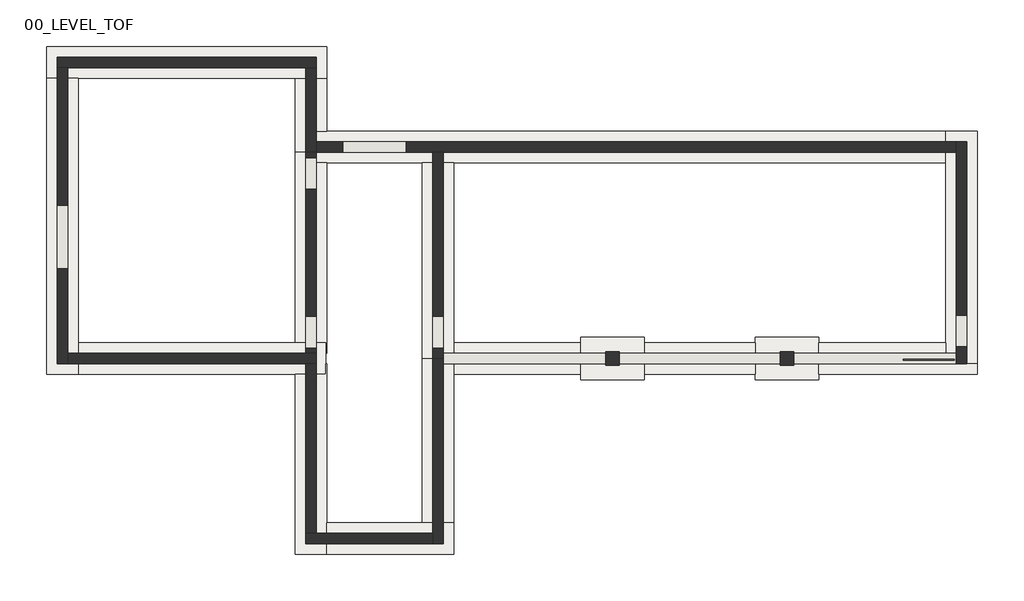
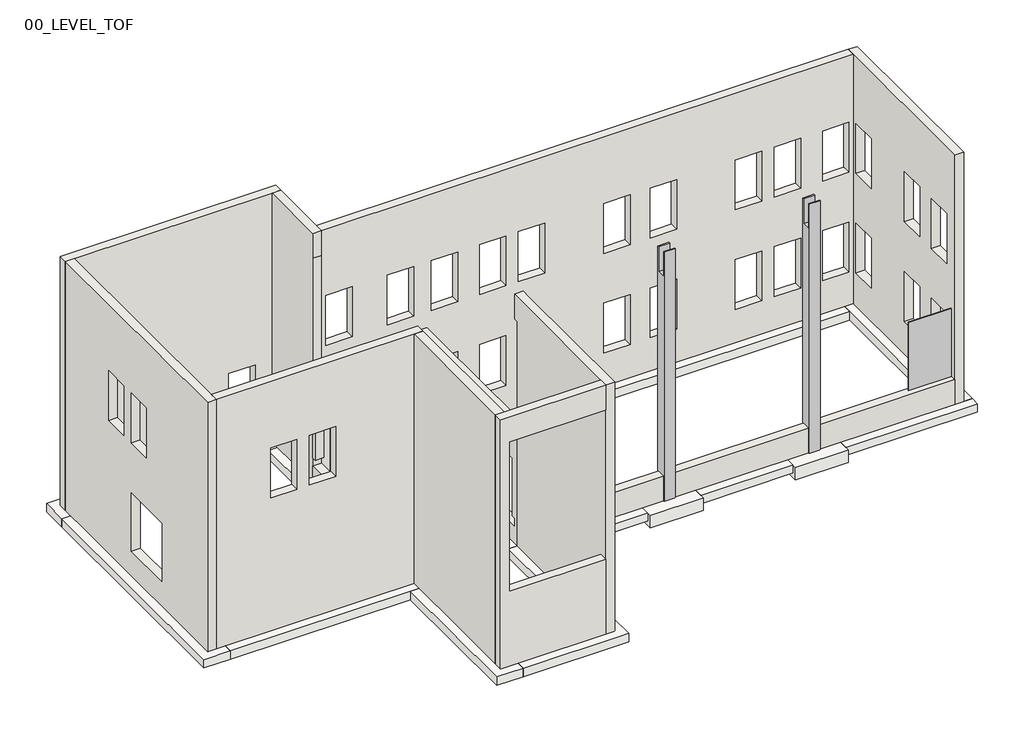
# One storey: 12 footings, 12 walls, 2 columns, 2 slabs, 1 plate.
"""IFC4 building model written with IfcOpenShell, lengths in millimetres."""

from ifc_helpers import new_model, si_unit, frame, origin, place, context, project, spatial, polyline, outline, extrude, faceted_brep, transform, mapped, element, save
from components import system_panel_glazed_93778ba0

model = new_model("IFC4")

# Units and contexts
model_context = context("Model", 3, world=origin())
ifc_project = project(units=[si_unit("LENGTHUNIT", "METRE", prefix="MILLI")], contexts=[model_context])

# Site, building, storey
site = spatial("IfcSite", under=ifc_project)
building = spatial("IfcBuilding", under=site)
storey = spatial("IfcBuildingStorey", under=building, Name="00_LEVEL_TOF", Elevation=-914.4)

# Columns
placement = place(None, origin())
element("IfcColumn", 1, ObjectType="Rectangular Column : 15\" X 15\"", at=placement, inside=storey, context=model_context, shape_type="SweptSolid", body=[
    extrude(outline(polyline([(25825.8332157, -914.4), (25825.8332157, 8229.6), (25863.9332157, 8229.6), (25863.9332157, 7315.2), (26168.7332157, 7315.2), (26168.7332157, 8229.6), (26206.8332157, 8229.6), (26206.8332157, -914.4), (26168.7332157, -914.4), (26168.7332157, 0.0), (25863.9332157, 0.0), (25863.9332157, -914.4), (25825.8332157, -914.4)])), frame((36624.4816981, 0.0, 0.0), z_axis=(1.0, 0.0, 0.0), x_axis=(0.0, 1.0, 0.0)), (0.0, 0.0, 1.0), 381.0),
])
element("IfcColumn", 2, ObjectType="Rectangular Column : 15\" X 15\"", at=placement, inside=storey, context=model_context, shape_type="SweptSolid", body=[
    extrude(outline(polyline([(25825.8332157, -914.4), (25825.8332157, 8229.6), (25863.9332157, 8229.6), (25863.9332157, 7315.2), (26168.7332157, 7315.2), (26168.7332157, 8229.6), (26206.8332157, 8229.6), (26206.8332157, -914.4), (26168.7332157, -914.4), (26168.7332157, 0.0), (25863.9332157, 0.0), (25863.9332157, -914.4), (25825.8332157, -914.4)])), frame((41653.6816981, 0.0, 0.0), z_axis=(1.0, 0.0, 0.0), x_axis=(0.0, 1.0, 0.0)), (0.0, 0.0, 1.0), 381.0),
])

# Footings
element("IfcFooting", 3, ObjectType="Bearing Footing - 36\" x 12\"", at=placement, inside=storey, context=model_context, shape_type="Brep", body=[
    faceted_brep([(47330.5816981, 25863.9332157, -914.4), (46416.1816981, 25863.9332157, -914.4), (46416.1816981, 25863.9332157, -1219.2), (47330.5816981, 25863.9332157, -1219.2), (46416.1816981, 32569.5332157, -914.4), (46416.1816981, 31655.1332157, -914.4), (46416.1816981, 26473.5332157, -914.4), (47330.5816981, 32569.5332157, -914.4), (47330.5816981, 32569.5332157, -1219.2), (46416.1816981, 32569.5332157, -1219.2), (46416.1816981, 26473.5332157, -1219.2), (46416.1816981, 31655.1332157, -1219.2)], [[[0, 1, 2, 3]], [[4, 5, 6, 1, 0, 7]], [[8, 7, 0, 3]], [[9, 8, 3, 2, 10, 11]], [[4, 9, 11, 10, 2, 1, 6, 5]], [[4, 7, 8, 9]]]),
])
element("IfcFooting", 4, ObjectType="Bearing Footing - 36\" x 12\"", at=placement, inside=storey, context=model_context, shape_type="Brep", body=[
    faceted_brep([(20508.1816981, 34093.5332157, -914.4), (21422.5816981, 34093.5332157, -914.4), (27670.9816981, 34093.5332157, -914.4), (28585.3816981, 34093.5332157, -914.4), (28585.3816981, 35007.9332157, -914.4), (20508.1816981, 35007.9332157, -914.4), (20508.1816981, 35007.9332157, -1219.2), (28585.3816981, 35007.9332157, -1219.2), (20508.1816981, 34093.5332157, -1219.2), (28585.3816981, 34093.5332157, -1219.2), (27670.9816981, 34093.5332157, -1219.2), (21422.5816981, 34093.5332157, -1219.2)], [[[0, 1, 2, 3, 4, 5]], [[6, 5, 4, 7]], [[8, 6, 7, 9, 10, 11]], [[0, 8, 11, 10, 9, 3, 2, 1]], [[4, 3, 9, 7]], [[0, 5, 6, 8]]]),
])
element("IfcFooting", 5, ObjectType="Bearing Footing - 36\" x 12\"", at=placement, inside=storey, context=model_context, shape_type="Brep", body=[
    faceted_brep([(20508.1816981, 25559.1332157, -914.4), (21422.5816981, 25559.1332157, -914.4), (21422.5816981, 26473.5332157, -914.4), (21422.5816981, 34093.5332157, -914.4), (20508.1816981, 34093.5332157, -914.4), (20508.1816981, 25559.1332157, -1219.2), (20508.1816981, 34093.5332157, -1219.2), (21422.5816981, 25559.1332157, -1219.2), (21422.5816981, 34093.5332157, -1219.2), (21422.5816981, 26473.5332157, -1219.2)], [[[0, 1, 2, 3, 4]], [[5, 0, 4, 6]], [[7, 5, 6, 8, 9]], [[1, 7, 9, 8, 3, 2]], [[1, 0, 5, 7]], [[4, 3, 8, 6]]]),
])
element("IfcFooting", 6, ObjectType="Bearing Footing - 36\" x 12\"", at=placement, inside=storey, context=model_context, shape_type="Brep", body=[
    faceted_brep([(28557.4397412, 25559.1332157, -914.4), (28557.4397412, 25559.1332157, -1219.2), (28557.4397412, 25863.9332157, -1219.2), (28557.4397412, 26168.7332157, -1219.2), (28557.4397412, 26473.5332157, -1219.2), (28557.4397412, 26473.5332157, -914.4), (28557.4397412, 26168.7332157, -914.4), (28557.4397412, 25863.9332157, -914.4), (27670.9816981, 26473.5332157, -914.4), (21422.5816981, 26473.5332157, -914.4), (21422.5816981, 25559.1332157, -914.4), (27670.9816981, 25559.1332157, -914.4), (21422.5816981, 25559.1332157, -1219.2), (27670.9816981, 25559.1332157, -1219.2), (21422.5816981, 26473.5332157, -1219.2), (27670.9816981, 26473.5332157, -1219.2)], [[[0, 1, 2, 3, 4, 5, 6, 7]], [[0, 7, 6, 5, 8, 9, 10, 11]], [[1, 0, 11, 10, 12, 13]], [[4, 3, 2, 1, 13, 12, 14, 15]], [[5, 4, 15, 14, 9, 8]], [[10, 9, 14, 12]]]),
])
element("IfcFooting", 7, ObjectType="Bearing Footing - 36\" x 12\"", at=placement, inside=storey, context=model_context, shape_type="Brep", body=[
    faceted_brep([(28128.1816981, 32112.3332157, -914.4), (28128.1816981, 31959.9332157, -914.4), (28128.1816981, 31655.1332157, -914.4), (28585.3816981, 31655.1332157, -914.4), (31328.5816981, 31655.1332157, -914.4), (32242.9816981, 31655.1332157, -914.4), (46416.1816981, 31655.1332157, -914.4), (46416.1816981, 32569.5332157, -914.4), (28585.3816981, 32569.5332157, -914.4), (28128.1816981, 32569.5332157, -914.4), (28128.1816981, 32569.5332157, -1219.2), (46416.1816981, 32569.5332157, -1219.2), (28585.3816981, 32569.5332157, -1219.2), (28128.1816981, 32112.3332157, -1219.2), (46416.1816981, 31655.1332157, -1219.2), (32242.9816981, 31655.1332157, -1219.2), (31328.5816981, 31655.1332157, -1219.2), (28585.3816981, 31655.1332157, -1219.2), (28128.1816981, 31655.1332157, -1219.2), (28128.1816981, 31959.9332157, -1219.2)], [[[0, 1, 2, 3, 4, 5, 6, 7, 8, 9]], [[10, 9, 8, 7, 11, 12]], [[13, 10, 12, 11, 14, 15, 16, 17, 18, 19]], [[2, 18, 17, 16, 15, 14, 6, 5, 4, 3]], [[7, 6, 14, 11]], [[18, 2, 1, 0, 13, 19]], [[9, 10, 13, 0]]]),
])
element("IfcFooting", 8, ObjectType="Bearing Footing - 36\" x 12\"", at=placement, inside=storey, context=model_context, shape_type="SweptSolid", body=[
    extrude(outline(polyline([(27670.9816981, 31959.9332157), (27670.9816981, 34093.5332157), (28585.3816981, 34093.5332157), (28585.3816981, 32569.5332157), (28128.1816981, 32569.5332157), (28128.1816981, 32112.3332157), (28128.1816981, 31959.9332157), (27670.9816981, 31959.9332157)])), frame((0.0, 0.0, -1219.2), z_axis=(0.0, 0.0, 1.0), x_axis=(1.0, 0.0, 0.0)), (0.0, 0.0, 1.0), 304.8),
])
element("IfcFooting", 9, ObjectType="Bearing Footing - 36\" x 12\"", at=placement, inside=storey, context=model_context, shape_type="Brep", body=[
    faceted_brep([(32242.9816981, 26016.3332157, -914.4), (31328.5816981, 26016.3332157, -914.4), (31328.5816981, 26016.3332157, -1219.2), (32242.9816981, 26016.3332157, -1219.2), (32242.9816981, 26473.5332157, -914.4), (32242.9816981, 31655.1332157, -914.4), (31328.5816981, 31655.1332157, -914.4), (31328.5816981, 31655.1332157, -1219.2), (32242.9816981, 31655.1332157, -1219.2), (32242.9816981, 26473.5332157, -1219.2)], [[[0, 1, 2, 3]], [[0, 4, 5, 6, 1]], [[2, 1, 6, 7]], [[3, 2, 7, 8, 9]], [[0, 3, 9, 8, 5, 4]], [[6, 5, 8, 7]]]),
])
element("IfcFooting", 10, ObjectType="Bearing Footing - 36\" x 12\"", at=placement, inside=storey, context=model_context, shape_type="SweptSolid", body=[
    extrude(outline(polyline([(27670.9816981, 26473.5332157), (27670.9816981, 31959.9332157), (28128.1816981, 31959.9332157), (28128.1816981, 31655.1332157), (28585.3816981, 31655.1332157), (28585.3816981, 26168.7332157), (28557.4397412, 26168.7332157), (28557.4397412, 26473.5332157), (27670.9816981, 26473.5332157)])), frame((0.0, 0.0, -1219.2), z_axis=(0.0, 0.0, 1.0), x_axis=(1.0, 0.0, 0.0)), (0.0, 0.0, 1.0), 304.8),
])
element("IfcFooting", 11, ObjectType="Bearing Footing - 36\" x 12\"", at=placement, inside=storey, context=model_context, shape_type="Brep", body=[
    faceted_brep([(28585.3816981, 25863.9332157, -914.4), (28585.3816981, 25863.9332157, -1219.2), (28557.4397412, 25863.9332157, -1219.2), (28557.4397412, 25863.9332157, -914.4), (28585.3816981, 20377.5332157, -914.4), (28585.3816981, 21291.9332157, -914.4), (28557.4397412, 25559.1332157, -914.4), (27670.9816981, 25559.1332157, -914.4), (27670.9816981, 20377.5332157, -914.4), (27670.9816981, 20377.5332157, -1219.2), (27670.9816981, 25559.1332157, -1219.2), (28585.3816981, 21291.9332157, -1219.2), (28585.3816981, 20377.5332157, -1219.2), (28557.4397412, 25559.1332157, -1219.2)], [[[0, 1, 2, 3]], [[4, 5, 0, 3, 6, 7, 8]], [[9, 8, 7, 10]], [[1, 11, 12, 9, 10, 13, 2]], [[1, 0, 5, 4, 12, 11]], [[13, 6, 3, 2]], [[6, 13, 10, 7]], [[4, 8, 9, 12]]]),
])
element("IfcFooting", 12, ObjectType="Bearing Footing - 36\" x 12\"", at=placement, inside=storey, context=model_context, shape_type="Brep", body=[
    faceted_brep([(32242.9816981, 20377.5332157, -914.4), (32242.9816981, 21291.9332157, -914.4), (31328.5816981, 21291.9332157, -914.4), (28585.3816981, 21291.9332157, -914.4), (28585.3816981, 20377.5332157, -914.4), (32242.9816981, 20377.5332157, -1219.2), (28585.3816981, 20377.5332157, -1219.2), (32242.9816981, 21291.9332157, -1219.2), (28585.3816981, 21291.9332157, -1219.2), (31328.5816981, 21291.9332157, -1219.2)], [[[0, 1, 2, 3, 4]], [[5, 0, 4, 6]], [[7, 5, 6, 8, 9]], [[1, 7, 9, 8, 3, 2]], [[4, 3, 8, 6]], [[1, 0, 5, 7]]]),
])
element("IfcFooting", 13, ObjectType="Bearing Footing - 36\" x 12\"", at=placement, inside=storey, context=model_context, shape_type="Brep", body=[
    faceted_brep([(32242.9816981, 26016.3332157, -914.4), (32242.9816981, 26016.3332157, -1219.2), (31328.5816981, 26016.3332157, -1219.2), (31328.5816981, 26016.3332157, -914.4), (31328.5816981, 21291.9332157, -914.4), (32242.9816981, 21291.9332157, -914.4), (32242.9816981, 25559.1332157, -914.4), (32242.9816981, 21291.9332157, -1219.2), (32242.9816981, 25559.1332157, -1219.2), (31328.5816981, 21291.9332157, -1219.2)], [[[0, 1, 2, 3]], [[0, 3, 4, 5, 6]], [[1, 0, 6, 5, 7, 8]], [[2, 1, 8, 7, 9]], [[3, 2, 9, 4]], [[5, 4, 9, 7]]]),
])
element("IfcFooting", 14, ObjectType="Bearing Footing - 36\" x 12\"", at=placement, inside=storey, context=model_context, shape_type="Brep", body=[
    faceted_brep([(47330.5816981, 25559.1332157, -914.4), (47330.5816981, 25863.9332157, -914.4), (46416.1816981, 25863.9332157, -914.4), (46416.1816981, 26473.5332157, -914.4), (42758.5816981, 26473.5332157, -914.4), (42758.5816981, 25559.1332157, -914.4), (47330.5816981, 25559.1332157, -1219.2), (42758.5816981, 25559.1332157, -1219.2), (47330.5816981, 25863.9332157, -1219.2), (42758.5816981, 26473.5332157, -1219.2), (46416.1816981, 26473.5332157, -1219.2), (46416.1816981, 25863.9332157, -1219.2)], [[[0, 1, 2, 3, 4, 5]], [[6, 0, 5, 7]], [[8, 6, 7, 9, 10, 11]], [[3, 10, 9, 4]], [[0, 6, 8, 1]], [[11, 2, 1, 8]], [[2, 11, 10, 3]], [[5, 4, 9, 7]]]),
    faceted_brep([(32242.9816981, 26473.5332157, -914.4), (32242.9816981, 26016.3332157, -914.4), (32242.9816981, 25559.1332157, -914.4), (35900.5816981, 25559.1332157, -914.4), (35900.5816981, 26473.5332157, -914.4), (32242.9816981, 25559.1332157, -1219.2), (35900.5816981, 25559.1332157, -1219.2), (32242.9816981, 26016.3332157, -1219.2), (32242.9816981, 26473.5332157, -1219.2), (35900.5816981, 26473.5332157, -1219.2)], [[[0, 1, 2, 3, 4]], [[2, 5, 6, 3]], [[5, 7, 8, 9, 6]], [[8, 0, 4, 9]], [[0, 8, 7, 5, 2, 1]], [[4, 3, 6, 9]]]),
    faceted_brep([(37729.3816981, 26473.5332157, -914.4), (37729.3816981, 25559.1332157, -914.4), (40929.7816981, 25559.1332157, -914.4), (40929.7816981, 26473.5332157, -914.4), (37729.3816981, 25559.1332157, -1219.2), (40929.7816981, 25559.1332157, -1219.2), (37729.3816981, 26473.5332157, -1219.2), (40929.7816981, 26473.5332157, -1219.2)], [[[0, 1, 2, 3]], [[1, 4, 5, 2]], [[4, 6, 7, 5]], [[6, 0, 3, 7]], [[1, 0, 6, 4]], [[3, 2, 5, 7]]]),
])

# Plate
system_panel_glazed_shape = system_panel_glazed_93778ba0(model_context)
element("IfcPlate", 15, ObjectType="System Panel : Glazed", at=placement, inside=storey, context=model_context, shape_type="MappedRepresentation", body=[
    mapped(system_panel_glazed_shape, transform((45924.0566981, 26016.3332157, 63.5), x_axis=(-1.0, 0.0, 0.0), y_axis=(0.0, -1.0, 0.0), z_axis=(0.0, 0.0, 1.0))),
])

# Slabs
element("IfcSlab", 16, ObjectType="Footing-Rectangular : 72\" x 48\" x 18\"", at=placement, inside=storey, context=model_context, shape_type="Brep", body=[
    faceted_brep([(35900.5816981, 26625.9332157, -914.4), (35900.5816981, 26473.5332157, -914.4), (35900.5816981, 25559.1332157, -914.4), (35900.5816981, 25406.7332157, -914.4), (37729.3816981, 25406.7332157, -914.4), (37729.3816981, 25559.1332157, -914.4), (37729.3816981, 26473.5332157, -914.4), (37729.3816981, 26625.9332157, -914.4), (35900.5816981, 26625.9332157, -1371.6), (37729.3816981, 26625.9332157, -1371.6), (37729.3816981, 25406.7332157, -1371.6), (35900.5816981, 25406.7332157, -1371.6)], [[[0, 1, 2, 3, 4, 5, 6, 7]], [[8, 9, 10, 11]], [[3, 2, 1, 0, 8, 11]], [[4, 3, 11, 10]], [[7, 6, 5, 4, 10, 9]], [[0, 7, 9, 8]]]),
])
element("IfcSlab", 17, ObjectType="Footing-Rectangular : 72\" x 48\" x 18\"", at=placement, inside=storey, context=model_context, shape_type="Brep", body=[
    faceted_brep([(40929.7816981, 26625.9332157, -914.4), (40929.7816981, 26473.5332157, -914.4), (40929.7816981, 25559.1332157, -914.4), (40929.7816981, 25406.7332157, -914.4), (42758.5816981, 25406.7332157, -914.4), (42758.5816981, 25559.1332157, -914.4), (42758.5816981, 26473.5332157, -914.4), (42758.5816981, 26625.9332157, -914.4), (40929.7816981, 26625.9332157, -1371.6), (42758.5816981, 26625.9332157, -1371.6), (42758.5816981, 25406.7332157, -1371.6), (40929.7816981, 25406.7332157, -1371.6)], [[[0, 1, 2, 3, 4, 5, 6, 7]], [[8, 9, 10, 11]], [[3, 2, 1, 0, 8, 11]], [[4, 3, 11, 10]], [[7, 6, 5, 4, 10, 9]], [[0, 7, 9, 8]]]),
])

# Walls
element("IfcWall", 18, ObjectType="Generic - 12\"", at=placement, inside=storey, context=model_context, shape_type="Brep", body=[
    faceted_brep([(20812.9816981, 34398.3332157, -914.4), (21117.7816981, 34398.3332157, -914.4), (27975.7816981, 34398.3332157, -914.4), (28280.5816981, 34398.3332157, -914.4), (28280.5816981, 34398.3332157, 8229.6), (27975.7816981, 34398.3332157, 8229.6), (21117.7816981, 34398.3332157, 8229.6), (20812.9816981, 34398.3332157, 8229.6), (24953.1816981, 34398.3332157, 2133.6), (24953.1816981, 34398.3332157, 609.6), (24038.7816981, 34398.3332157, 609.6), (24038.7816981, 34398.3332157, 2133.6), (27391.5816981, 34398.3332157, 2133.6), (27391.5816981, 34398.3332157, 609.6), (26477.1816981, 34398.3332157, 609.6), (26477.1816981, 34398.3332157, 2133.6), (20812.9816981, 34703.1332157, -914.4), (20812.9816981, 34703.1332157, 8229.6), (28280.5816981, 34703.1332157, 8229.6), (28280.5816981, 34703.1332157, -914.4), (24953.1816981, 34703.1332157, 2133.6), (24038.7816981, 34703.1332157, 2133.6), (24038.7816981, 34703.1332157, 609.6), (24953.1816981, 34703.1332157, 609.6), (27391.5816981, 34703.1332157, 2133.6), (26477.1816981, 34703.1332157, 2133.6), (26477.1816981, 34703.1332157, 609.6), (27391.5816981, 34703.1332157, 609.6)], [[[0, 1, 2, 3, 4, 5, 6, 7], [8, 9, 10, 11], [12, 13, 14, 15]], [[16, 17, 18, 19], [20, 21, 22, 23], [24, 25, 26, 27]], [[3, 2, 1, 0, 16, 19]], [[7, 6, 5, 4, 18, 17]], [[0, 7, 17, 16]], [[4, 3, 19, 18]], [[9, 8, 20, 23]], [[10, 9, 23, 22]], [[11, 10, 22, 21]], [[8, 11, 21, 20]], [[13, 12, 24, 27]], [[14, 13, 27, 26]], [[15, 14, 26, 25]], [[12, 15, 25, 24]]]),
])
element("IfcWall", 19, ObjectType="Generic - 12\"", at=placement, inside=storey, context=model_context, shape_type="Brep", body=[
    faceted_brep([(21117.7816981, 25863.9332157, -914.4), (21117.7816981, 26168.7332157, -914.4), (21117.7816981, 34398.3332157, -914.4), (21117.7816981, 34398.3332157, -304.8), (21117.7816981, 34398.3332157, 0.0), (21117.7816981, 34398.3332157, 3384.55), (21117.7816981, 34398.3332157, 3657.6), (21117.7816981, 34398.3332157, 8229.6), (21117.7816981, 26168.7332157, 8229.6), (21117.7816981, 25863.9332157, 8229.6), (21117.7816981, 28607.1332157, 0.0), (21117.7816981, 28607.1332157, 2133.6), (21117.7816981, 30435.9332157, 2133.6), (21117.7816981, 30435.9332157, 0.0), (21117.7816981, 30461.3332157, 5791.2), (21117.7816981, 30461.3332157, 3962.4), (21117.7816981, 29546.9332157, 3962.4), (21117.7816981, 29546.9332157, 5791.2), (21117.7816981, 31807.5332157, 5791.2), (21117.7816981, 31807.5332157, 3962.4), (21117.7816981, 30893.1332157, 3962.4), (21117.7816981, 30893.1332157, 5791.2), (20812.9816981, 25863.9332157, -914.4), (20812.9816981, 25863.9332157, 8229.6), (20812.9816981, 34398.3332157, 8229.6), (20812.9816981, 34398.3332157, -914.4), (20812.9816981, 28607.1332157, 0.0), (20812.9816981, 30435.9332157, 0.0), (20812.9816981, 30435.9332157, 2133.6), (20812.9816981, 28607.1332157, 2133.6), (20812.9816981, 30461.3332157, 5791.2), (20812.9816981, 29546.9332157, 5791.2), (20812.9816981, 29546.9332157, 3962.4), (20812.9816981, 30461.3332157, 3962.4), (20812.9816981, 31807.5332157, 5791.2), (20812.9816981, 30893.1332157, 5791.2), (20812.9816981, 30893.1332157, 3962.4), (20812.9816981, 31807.5332157, 3962.4)], [[[0, 1, 2, 3, 4, 5, 6, 7, 8, 9], [10, 11, 12, 13], [14, 15, 16, 17], [18, 19, 20, 21]], [[22, 23, 24, 25], [26, 27, 28, 29], [30, 31, 32, 33], [34, 35, 36, 37]], [[2, 1, 0, 22, 25]], [[9, 8, 7, 24, 23]], [[0, 9, 23, 22]], [[7, 6, 5, 4, 3, 2, 25, 24]], [[11, 10, 26, 29]], [[12, 11, 29, 28]], [[13, 12, 28, 27]], [[10, 13, 27, 26]], [[15, 14, 30, 33]], [[16, 15, 33, 32]], [[17, 16, 32, 31]], [[14, 17, 31, 30]], [[19, 18, 34, 37]], [[20, 19, 37, 36]], [[21, 20, 36, 35]], [[18, 21, 35, 34]]]),
])
element("IfcWall", 20, ObjectType="Generic - 12\"", at=placement, inside=storey, context=model_context, shape_type="Brep", body=[
    faceted_brep([(46720.9816981, 32264.7332157, -914.4), (46720.9816981, 31959.9332157, -914.4), (46720.9816981, 26168.7332157, -914.4), (46720.9816981, 25863.9332157, -914.4), (46720.9816981, 25863.9332157, 0.0), (46720.9816981, 25863.9332157, 7315.2), (46720.9816981, 25863.9332157, 8229.6), (46720.9816981, 26168.7332157, 8229.6), (46720.9816981, 31959.9332157, 8229.6), (46720.9816981, 32264.7332157, 8229.6), (46720.9816981, 27267.2832157, 0.0), (46720.9816981, 27267.2832157, 2133.6), (46720.9816981, 26352.8832157, 2133.6), (46720.9816981, 26352.8832157, 0.0), (46720.9816981, 26352.8832157, 5791.2), (46720.9816981, 26352.8832157, 3962.4), (46720.9816981, 27267.2832157, 3962.4), (46720.9816981, 27267.2832157, 5791.2), (46720.9816981, 30893.1332157, 2133.6), (46720.9816981, 30893.1332157, 304.8), (46720.9816981, 31807.5332157, 304.8), (46720.9816981, 31807.5332157, 2133.6), (46720.9816981, 27972.1332157, 2133.6), (46720.9816981, 27972.1332157, 304.8), (46720.9816981, 28886.5332157, 304.8), (46720.9816981, 28886.5332157, 2133.6), (46720.9816981, 27972.1332157, 5791.2), (46720.9816981, 27972.1332157, 3962.4), (46720.9816981, 28886.5332157, 3962.4), (46720.9816981, 28886.5332157, 5791.2), (46720.9816981, 30893.1332157, 5791.2), (46720.9816981, 30893.1332157, 3962.4), (46720.9816981, 31807.5332157, 3962.4), (46720.9816981, 31807.5332157, 5791.2), (47025.7816981, 32264.7332157, -914.4), (47025.7816981, 32264.7332157, 8229.6), (47025.7816981, 25863.9332157, 8229.6), (47025.7816981, 25863.9332157, -914.4), (47025.7816981, 27267.2832157, 0.0), (47025.7816981, 26352.8832157, 0.0), (47025.7816981, 26352.8832157, 2133.6), (47025.7816981, 27267.2832157, 2133.6), (47025.7816981, 26352.8832157, 5791.2), (47025.7816981, 27267.2832157, 5791.2), (47025.7816981, 27267.2832157, 3962.4), (47025.7816981, 26352.8832157, 3962.4), (47025.7816981, 30893.1332157, 2133.6), (47025.7816981, 31807.5332157, 2133.6), (47025.7816981, 31807.5332157, 304.8), (47025.7816981, 30893.1332157, 304.8), (47025.7816981, 27972.1332157, 2133.6), (47025.7816981, 28886.5332157, 2133.6), (47025.7816981, 28886.5332157, 304.8), (47025.7816981, 27972.1332157, 304.8), (47025.7816981, 27972.1332157, 5791.2), (47025.7816981, 28886.5332157, 5791.2), (47025.7816981, 28886.5332157, 3962.4), (47025.7816981, 27972.1332157, 3962.4), (47025.7816981, 30893.1332157, 5791.2), (47025.7816981, 31807.5332157, 5791.2), (47025.7816981, 31807.5332157, 3962.4), (47025.7816981, 30893.1332157, 3962.4)], [[[0, 1, 2, 3, 4, 5, 6, 7, 8, 9], [10, 11, 12, 13], [14, 15, 16, 17], [18, 19, 20, 21], [22, 23, 24, 25], [26, 27, 28, 29], [30, 31, 32, 33]], [[34, 35, 36, 37], [38, 39, 40, 41], [42, 43, 44, 45], [46, 47, 48, 49], [50, 51, 52, 53], [54, 55, 56, 57], [58, 59, 60, 61]], [[3, 2, 1, 0, 34, 37]], [[6, 5, 4, 3, 37, 36]], [[9, 8, 7, 6, 36, 35]], [[0, 9, 35, 34]], [[39, 38, 10, 13]], [[40, 39, 13, 12]], [[41, 40, 12, 11]], [[38, 41, 11, 10]], [[15, 14, 42, 45]], [[16, 15, 45, 44]], [[17, 16, 44, 43]], [[14, 17, 43, 42]], [[19, 18, 46, 49]], [[20, 19, 49, 48]], [[21, 20, 48, 47]], [[18, 21, 47, 46]], [[23, 22, 50, 53]], [[24, 23, 53, 52]], [[25, 24, 52, 51]], [[22, 25, 51, 50]], [[27, 26, 54, 57]], [[28, 27, 57, 56]], [[29, 28, 56, 55]], [[26, 29, 55, 54]], [[31, 30, 58, 61]], [[32, 31, 61, 60]], [[33, 32, 60, 59]], [[30, 33, 59, 58]]]),
])
element("IfcWall", 21, ObjectType="Generic - 12\"", at=placement, inside=storey, context=model_context, shape_type="Brep", body=[
    faceted_brep([(28280.5816981, 26168.7332157, -914.4), (28280.5816981, 31959.9332157, -914.4), (28280.5816981, 31959.9332157, -304.8), (28280.5816981, 26168.7332157, -304.8), (27975.7816981, 31959.9332157, -914.4), (27975.7816981, 26168.7332157, -914.4), (27975.7816981, 26168.7332157, -304.8), (27975.7816981, 31959.9332157, -304.8)], [[[0, 1, 2, 3]], [[4, 5, 6, 7]], [[1, 0, 5, 4]], [[5, 0, 3, 6]], [[1, 4, 7, 2]], [[3, 2, 7, 6]]]),
    faceted_brep([(28280.5816981, 26321.1332157, 0.0), (28280.5816981, 26321.1332157, 2133.6), (28280.5816981, 27235.5332157, 2133.6), (28280.5816981, 27235.5332157, 0.0), (28280.5816981, 30893.1332157, 0.0), (28280.5816981, 30893.1332157, 2133.6), (28280.5816981, 31807.5332157, 2133.6), (28280.5816981, 31807.5332157, 0.0), (28280.5816981, 31959.9332157, 0.0), (28280.5816981, 31959.9332157, 3384.55), (28280.5816981, 26168.7332157, 3384.55), (28280.5816981, 26168.7332157, 0.0), (27975.7816981, 26321.1332157, 2133.6), (27975.7816981, 26321.1332157, 0.0), (27975.7816981, 26168.7332157, 0.0), (27975.7816981, 26168.7332157, 3384.55), (27975.7816981, 30613.7332157, 3384.55), (27975.7816981, 30740.7332157, 3384.55), (27975.7816981, 31959.9332157, 3384.55), (27975.7816981, 31959.9332157, 0.0), (27975.7816981, 31807.5332157, 0.0), (27975.7816981, 31807.5332157, 2133.6), (27975.7816981, 30893.1332157, 2133.6), (27975.7816981, 30893.1332157, 0.0), (27975.7816981, 30740.7332157, 0.0), (27975.7816981, 30613.7332157, 0.0), (27975.7816981, 27235.5332157, 0.0), (27975.7816981, 27235.5332157, 2133.6)], [[[0, 1, 2, 3, 4, 5, 6, 7, 8, 9, 10, 11]], [[12, 13, 14, 15, 16, 17, 18, 19, 20, 21, 22, 23, 24, 25, 26, 27]], [[1, 0, 13, 12]], [[2, 1, 12, 27]], [[3, 2, 27, 26]], [[10, 15, 14, 11]], [[15, 10, 9, 18, 17, 16]], [[18, 9, 8, 19]], [[8, 7, 20, 19]], [[0, 11, 14, 13]], [[4, 3, 26, 25, 24, 23]], [[5, 4, 23, 22]], [[6, 5, 22, 21]], [[7, 6, 21, 20]]]),
])
element("IfcWall", 22, ObjectType="Generic - 12\"", at=placement, inside=storey, context=model_context, shape_type="Brep", body=[
    faceted_brep([(31938.1816981, 26016.3332157, -914.4), (31938.1816981, 26168.7332157, -914.4), (31938.1816981, 31959.9332157, -914.4), (31938.1816981, 31959.9332157, -304.8), (31938.1816981, 26168.7332157, -304.8), (31938.1816981, 26168.7332157, 0.0), (31938.1816981, 26321.1332157, 0.0), (31938.1816981, 26321.1332157, 2133.6), (31938.1816981, 27235.5332157, 2133.6), (31938.1816981, 27235.5332157, 0.0), (31938.1816981, 27692.7332157, 0.0), (31938.1816981, 27819.7332157, 0.0), (31938.1816981, 31959.9332157, 0.0), (31938.1816981, 31959.9332157, 3384.55), (31938.1816981, 27819.7332157, 3384.55), (31938.1816981, 27692.7332157, 3384.55), (31938.1816981, 26079.8332157, 3384.55), (31938.1816981, 26016.3332157, 3384.55), (31633.3816981, 31959.9332157, -914.4), (31633.3816981, 26016.3332157, -914.4), (31633.3816981, 26016.3332157, -304.8), (31633.3816981, 26016.3332157, 0.0), (31633.3816981, 26016.3332157, 3384.55), (31633.3816981, 26079.8332157, 3384.55), (31633.3816981, 31959.9332157, 3384.55), (31633.3816981, 31959.9332157, 0.0), (31633.3816981, 27235.5332157, 0.0), (31633.3816981, 27235.5332157, 2133.6), (31633.3816981, 26321.1332157, 2133.6), (31633.3816981, 26321.1332157, 0.0), (31633.3816981, 26168.7332157, 0.0), (31633.3816981, 26168.7332157, -304.8), (31633.3816981, 31959.9332157, -304.8)], [[[0, 1, 2, 3, 4, 5, 6, 7, 8, 9, 10, 11, 12, 13, 14, 15, 16, 17]], [[18, 19, 20, 21, 22, 23, 24, 25, 26, 27, 28, 29, 30, 31, 32]], [[2, 1, 0, 19, 18]], [[7, 6, 29, 28]], [[8, 7, 28, 27]], [[9, 8, 27, 26]], [[2, 18, 32, 3]], [[24, 13, 12, 25]], [[31, 4, 3, 32]], [[12, 11, 10, 9, 26, 25]], [[5, 30, 29, 6]], [[22, 17, 16, 23]], [[13, 24, 23, 16, 15, 14]], [[17, 22, 21, 20, 19, 0]], [[4, 31, 30, 5]]]),
])
element("IfcWall", 23, ObjectType="Generic - 12\"", at=placement, inside=storey, context=model_context, shape_type="Brep", body=[
    faceted_brep([(28280.5816981, 26168.7332157, -914.4), (27975.7816981, 26168.7332157, -914.4), (21117.7816981, 26168.7332157, -914.4), (21117.7816981, 26168.7332157, -304.8), (21117.7816981, 26168.7332157, 0.0), (21117.7816981, 26168.7332157, 8229.6), (28280.5816981, 26168.7332157, 8229.6), (28280.5816981, 26168.7332157, 7315.2), (28280.5816981, 26168.7332157, 3657.6), (28280.5816981, 26168.7332157, 3384.55), (28280.5816981, 26168.7332157, 0.0), (28280.5816981, 26168.7332157, -304.8), (22997.3816981, 26168.7332157, 5791.2), (22997.3816981, 26168.7332157, 3962.4), (23911.7816981, 26168.7332157, 3962.4), (23911.7816981, 26168.7332157, 5791.2), (24343.5816981, 26168.7332157, 5791.2), (24343.5816981, 26168.7332157, 3962.4), (25257.9816981, 26168.7332157, 3962.4), (25257.9816981, 26168.7332157, 5791.2), (21117.7816981, 25863.9332157, -914.4), (27975.7816981, 25863.9332157, -914.4), (28280.5816981, 25863.9332157, -914.4), (28280.5816981, 25863.9332157, -304.8), (28280.5816981, 25863.9332157, 0.0), (28280.5816981, 25863.9332157, 8229.6), (27975.7816981, 25863.9332157, 8229.6), (21117.7816981, 25863.9332157, 8229.6), (22997.3816981, 25863.9332157, 3962.4), (22997.3816981, 25863.9332157, 5791.2), (23911.7816981, 25863.9332157, 5791.2), (23911.7816981, 25863.9332157, 3962.4), (24343.5816981, 25863.9332157, 3962.4), (24343.5816981, 25863.9332157, 5791.2), (25257.9816981, 25863.9332157, 5791.2), (25257.9816981, 25863.9332157, 3962.4)], [[[0, 1, 2, 3, 4, 5, 6, 7, 8, 9, 10, 11], [12, 13, 14, 15], [16, 17, 18, 19]], [[20, 21, 22, 23, 24, 25, 26, 27], [28, 29, 30, 31], [32, 33, 34, 35]], [[2, 1, 0, 22, 21, 20]], [[6, 5, 27, 26, 25]], [[2, 20, 27, 5, 4, 3]], [[6, 25, 24, 23, 22, 0, 11, 10, 9, 8, 7]], [[13, 12, 29, 28]], [[14, 13, 28, 31]], [[15, 14, 31, 30]], [[12, 15, 30, 29]], [[17, 16, 33, 32]], [[18, 17, 32, 35]], [[19, 18, 35, 34]], [[16, 19, 34, 33]]]),
])
element("IfcWall", 24, ObjectType="Generic - 12\"", at=placement, inside=storey, context=model_context, shape_type="Brep", body=[
    faceted_brep([(28280.5816981, 31959.9332157, -914.4), (31633.3816981, 31959.9332157, -914.4), (31938.1816981, 31959.9332157, -914.4), (46720.9816981, 31959.9332157, -914.4), (46720.9816981, 31959.9332157, -304.8), (46720.9816981, 31959.9332157, 0.0), (46720.9816981, 31959.9332157, 3384.55), (46720.9816981, 31959.9332157, 3657.6), (46720.9816981, 31959.9332157, 7315.2), (46720.9816981, 31959.9332157, 7620.0), (46720.9816981, 31959.9332157, 8229.6), (28280.5816981, 31959.9332157, 8229.6), (28280.5816981, 31959.9332157, 7620.0), (28280.5816981, 31959.9332157, 7315.2), (28280.5816981, 31959.9332157, 6356.35), (28280.5816981, 31959.9332157, 6248.4), (28280.5816981, 31959.9332157, 3657.6), (28280.5816981, 31959.9332157, 3384.55), (28280.5816981, 31959.9332157, 2698.75), (28280.5816981, 31959.9332157, 2590.8), (28280.5816981, 31959.9332157, 0.0), (28280.5816981, 31959.9332157, -304.8), (30871.3816981, 31959.9332157, 0.0), (29042.5816981, 31959.9332157, 0.0), (29042.5816981, 31959.9332157, 2133.6), (30871.3816981, 31959.9332157, 2133.6), (34678.8416981, 31959.9332157, 2133.6), (34678.8416981, 31959.9332157, 304.8), (33764.4416981, 31959.9332157, 304.8), (33764.4416981, 31959.9332157, 2133.6), (35110.6416981, 31959.9332157, 304.8), (35110.6416981, 31959.9332157, 2133.6), (36025.0416981, 31959.9332157, 2133.6), (36025.0416981, 31959.9332157, 304.8), (40591.9616981, 31959.9332157, 2133.6), (40591.9616981, 31959.9332157, 304.8), (39677.5616981, 31959.9332157, 304.8), (39677.5616981, 31959.9332157, 2133.6), (38067.2016981, 31959.9332157, 304.8), (38067.2016981, 31959.9332157, 2133.6), (38981.6016981, 31959.9332157, 2133.6), (38981.6016981, 31959.9332157, 304.8), (43980.3216981, 31959.9332157, 304.8), (43980.3216981, 31959.9332157, 2133.6), (44894.7216981, 31959.9332157, 2133.6), (44894.7216981, 31959.9332157, 304.8), (43548.5216981, 31959.9332157, 2133.6), (43548.5216981, 31959.9332157, 304.8), (42634.1216981, 31959.9332157, 304.8), (42634.1216981, 31959.9332157, 2133.6), (46568.5816981, 31959.9332157, 2133.6), (46568.5816981, 31959.9332157, 304.8), (45654.1816981, 31959.9332157, 304.8), (45654.1816981, 31959.9332157, 2133.6), (32090.5816981, 31959.9332157, 304.8), (32090.5816981, 31959.9332157, 2133.6), (33004.9816981, 31959.9332157, 2133.6), (33004.9816981, 31959.9332157, 304.8), (32090.5816981, 31959.9332157, 3962.4), (32090.5816981, 31959.9332157, 5791.2), (33004.9816981, 31959.9332157, 5791.2), (33004.9816981, 31959.9332157, 3962.4), (46568.5816981, 31959.9332157, 5791.2), (46568.5816981, 31959.9332157, 3962.4), (45654.1816981, 31959.9332157, 3962.4), (45654.1816981, 31959.9332157, 5791.2), (43980.3216981, 31959.9332157, 3962.4), (43980.3216981, 31959.9332157, 5791.2), (44894.7216981, 31959.9332157, 5791.2), (44894.7216981, 31959.9332157, 3962.4), (43548.5216981, 31959.9332157, 5791.2), (43548.5216981, 31959.9332157, 3962.4), (42634.1216981, 31959.9332157, 3962.4), (42634.1216981, 31959.9332157, 5791.2), (38067.2016981, 31959.9332157, 3962.4), (38067.2016981, 31959.9332157, 5791.2), (38981.6016981, 31959.9332157, 5791.2), (38981.6016981, 31959.9332157, 3962.4), (40591.9616981, 31959.9332157, 5791.2), (40591.9616981, 31959.9332157, 3962.4), (39677.5616981, 31959.9332157, 3962.4), (39677.5616981, 31959.9332157, 5791.2), (35110.6416981, 31959.9332157, 3962.4), (35110.6416981, 31959.9332157, 5791.2), (36025.0416981, 31959.9332157, 5791.2), (36025.0416981, 31959.9332157, 3962.4), (34678.8416981, 31959.9332157, 5791.2), (34678.8416981, 31959.9332157, 3962.4), (33764.4416981, 31959.9332157, 3962.4), (33764.4416981, 31959.9332157, 5791.2), (31480.9816981, 31959.9332157, 5791.2), (31480.9816981, 31959.9332157, 3962.4), (30566.5816981, 31959.9332157, 3962.4), (30566.5816981, 31959.9332157, 5791.2), (28432.9816981, 31959.9332157, 3962.4), (28432.9816981, 31959.9332157, 5791.2), (29347.3816981, 31959.9332157, 5791.2), (29347.3816981, 31959.9332157, 3962.4), (46720.9816981, 32264.7332157, -914.4), (28280.5816981, 32264.7332157, -914.4), (28280.5816981, 32264.7332157, 8229.6), (46720.9816981, 32264.7332157, 8229.6), (29042.5816981, 32264.7332157, 0.0), (30871.3816981, 32264.7332157, 0.0), (30871.3816981, 32264.7332157, 2133.6), (29042.5816981, 32264.7332157, 2133.6), (34678.8416981, 32264.7332157, 304.8), (34678.8416981, 32264.7332157, 2133.6), (33764.4416981, 32264.7332157, 2133.6), (33764.4416981, 32264.7332157, 304.8), (35110.6416981, 32264.7332157, 2133.6), (35110.6416981, 32264.7332157, 304.8), (36025.0416981, 32264.7332157, 304.8), (36025.0416981, 32264.7332157, 2133.6), (40591.9616981, 32264.7332157, 304.8), (40591.9616981, 32264.7332157, 2133.6), (39677.5616981, 32264.7332157, 2133.6), (39677.5616981, 32264.7332157, 304.8), (38067.2016981, 32264.7332157, 2133.6), (38067.2016981, 32264.7332157, 304.8), (38981.6016981, 32264.7332157, 304.8), (38981.6016981, 32264.7332157, 2133.6), (43980.3216981, 32264.7332157, 2133.6), (43980.3216981, 32264.7332157, 304.8), (44894.7216981, 32264.7332157, 304.8), (44894.7216981, 32264.7332157, 2133.6), (43548.5216981, 32264.7332157, 304.8), (43548.5216981, 32264.7332157, 2133.6), (42634.1216981, 32264.7332157, 2133.6), (42634.1216981, 32264.7332157, 304.8), (46568.5816981, 32264.7332157, 304.8), (46568.5816981, 32264.7332157, 2133.6), (45654.1816981, 32264.7332157, 2133.6), (45654.1816981, 32264.7332157, 304.8), (32090.5816981, 32264.7332157, 2133.6), (32090.5816981, 32264.7332157, 304.8), (33004.9816981, 32264.7332157, 304.8), (33004.9816981, 32264.7332157, 2133.6), (32090.5816981, 32264.7332157, 5791.2), (32090.5816981, 32264.7332157, 3962.4), (33004.9816981, 32264.7332157, 3962.4), (33004.9816981, 32264.7332157, 5791.2), (46568.5816981, 32264.7332157, 3962.4), (46568.5816981, 32264.7332157, 5791.2), (45654.1816981, 32264.7332157, 5791.2), (45654.1816981, 32264.7332157, 3962.4), (43980.3216981, 32264.7332157, 5791.2), (43980.3216981, 32264.7332157, 3962.4), (44894.7216981, 32264.7332157, 3962.4), (44894.7216981, 32264.7332157, 5791.2), (43548.5216981, 32264.7332157, 3962.4), (43548.5216981, 32264.7332157, 5791.2), (42634.1216981, 32264.7332157, 5791.2), (42634.1216981, 32264.7332157, 3962.4), (38067.2016981, 32264.7332157, 5791.2), (38067.2016981, 32264.7332157, 3962.4), (38981.6016981, 32264.7332157, 3962.4), (38981.6016981, 32264.7332157, 5791.2), (40591.9616981, 32264.7332157, 3962.4), (40591.9616981, 32264.7332157, 5791.2), (39677.5616981, 32264.7332157, 5791.2), (39677.5616981, 32264.7332157, 3962.4), (35110.6416981, 32264.7332157, 5791.2), (35110.6416981, 32264.7332157, 3962.4), (36025.0416981, 32264.7332157, 3962.4), (36025.0416981, 32264.7332157, 5791.2), (34678.8416981, 32264.7332157, 3962.4), (34678.8416981, 32264.7332157, 5791.2), (33764.4416981, 32264.7332157, 5791.2), (33764.4416981, 32264.7332157, 3962.4), (31480.9816981, 32264.7332157, 3962.4), (31480.9816981, 32264.7332157, 5791.2), (30566.5816981, 32264.7332157, 5791.2), (30566.5816981, 32264.7332157, 3962.4), (28432.9816981, 32264.7332157, 5791.2), (28432.9816981, 32264.7332157, 3962.4), (29347.3816981, 32264.7332157, 3962.4), (29347.3816981, 32264.7332157, 5791.2)], [[[0, 1, 2, 3, 4, 5, 6, 7, 8, 9, 10, 11, 12, 13, 14, 15, 16, 17, 18, 19, 20, 21], [22, 23, 24, 25], [26, 27, 28, 29], [30, 31, 32, 33], [34, 35, 36, 37], [38, 39, 40, 41], [42, 43, 44, 45], [46, 47, 48, 49], [50, 51, 52, 53], [54, 55, 56, 57], [58, 59, 60, 61], [62, 63, 64, 65], [66, 67, 68, 69], [70, 71, 72, 73], [74, 75, 76, 77], [78, 79, 80, 81], [82, 83, 84, 85], [86, 87, 88, 89], [90, 91, 92, 93], [94, 95, 96, 97]], [[98, 99, 100, 101], [102, 103, 104, 105], [106, 107, 108, 109], [110, 111, 112, 113], [114, 115, 116, 117], [118, 119, 120, 121], [122, 123, 124, 125], [126, 127, 128, 129], [130, 131, 132, 133], [134, 135, 136, 137], [138, 139, 140, 141], [142, 143, 144, 145], [146, 147, 148, 149], [150, 151, 152, 153], [154, 155, 156, 157], [158, 159, 160, 161], [162, 163, 164, 165], [166, 167, 168, 169], [170, 171, 172, 173], [174, 175, 176, 177]], [[3, 2, 1, 0, 99, 98]], [[11, 10, 101, 100]], [[3, 98, 101, 10, 9, 8, 7, 6, 5, 4]], [[23, 22, 103, 102]], [[24, 23, 102, 105]], [[25, 24, 105, 104]], [[22, 25, 104, 103]], [[11, 100, 99, 0, 21, 20, 19, 18, 17, 16, 15, 14, 13, 12]], [[27, 26, 107, 106]], [[28, 27, 106, 109]], [[29, 28, 109, 108]], [[26, 29, 108, 107]], [[111, 110, 31, 30]], [[112, 111, 30, 33]], [[113, 112, 33, 32]], [[110, 113, 32, 31]], [[35, 34, 115, 114]], [[36, 35, 114, 117]], [[37, 36, 117, 116]], [[34, 37, 116, 115]], [[119, 118, 39, 38]], [[120, 119, 38, 41]], [[121, 120, 41, 40]], [[118, 121, 40, 39]], [[123, 122, 43, 42]], [[124, 123, 42, 45]], [[125, 124, 45, 44]], [[122, 125, 44, 43]], [[47, 46, 127, 126]], [[48, 47, 126, 129]], [[49, 48, 129, 128]], [[46, 49, 128, 127]], [[51, 50, 131, 130]], [[52, 51, 130, 133]], [[53, 52, 133, 132]], [[50, 53, 132, 131]], [[135, 134, 55, 54]], [[136, 135, 54, 57]], [[137, 136, 57, 56]], [[134, 137, 56, 55]], [[139, 138, 59, 58]], [[140, 139, 58, 61]], [[141, 140, 61, 60]], [[138, 141, 60, 59]], [[63, 62, 143, 142]], [[64, 63, 142, 145]], [[65, 64, 145, 144]], [[62, 65, 144, 143]], [[147, 146, 67, 66]], [[148, 147, 66, 69]], [[149, 148, 69, 68]], [[146, 149, 68, 67]], [[71, 70, 151, 150]], [[72, 71, 150, 153]], [[73, 72, 153, 152]], [[70, 73, 152, 151]], [[155, 154, 75, 74]], [[156, 155, 74, 77]], [[157, 156, 77, 76]], [[154, 157, 76, 75]], [[79, 78, 159, 158]], [[80, 79, 158, 161]], [[81, 80, 161, 160]], [[78, 81, 160, 159]], [[163, 162, 83, 82]], [[164, 163, 82, 85]], [[165, 164, 85, 84]], [[162, 165, 84, 83]], [[87, 86, 167, 166]], [[88, 87, 166, 169]], [[89, 88, 169, 168]], [[86, 89, 168, 167]], [[91, 90, 171, 170]], [[92, 91, 170, 173]], [[93, 92, 173, 172]], [[90, 93, 172, 171]], [[175, 174, 95, 94]], [[176, 175, 94, 97]], [[177, 176, 97, 96]], [[174, 177, 96, 95]]]),
])
element("IfcWall", 25, ObjectType="Generic - 12\"", at=placement, inside=storey, context=model_context, shape_type="Brep", body=[
    faceted_brep([(28280.5816981, 31959.9332157, -914.4), (28280.5816981, 32264.7332157, -914.4), (28280.5816981, 34398.3332157, -914.4), (28280.5816981, 34398.3332157, 8229.6), (28280.5816981, 32264.7332157, 8229.6), (28280.5816981, 31959.9332157, 8229.6), (28280.5816981, 31959.9332157, 7315.2), (28280.5816981, 31959.9332157, 3657.6), (28280.5816981, 31959.9332157, 3384.55), (28280.5816981, 31959.9332157, 0.0), (28280.5816981, 31959.9332157, -304.8), (27975.7816981, 34398.3332157, -914.4), (27975.7816981, 31959.9332157, -914.4), (27975.7816981, 31959.9332157, -304.8), (27975.7816981, 31959.9332157, 0.0), (27975.7816981, 31959.9332157, 3384.55), (27975.7816981, 31959.9332157, 3657.6), (27975.7816981, 31959.9332157, 7315.2), (27975.7816981, 31959.9332157, 8229.6), (27975.7816981, 34398.3332157, 8229.6), (27975.7816981, 34398.3332157, 3657.6), (27975.7816981, 34398.3332157, 3384.55), (27975.7816981, 34398.3332157, 0.0), (27975.7816981, 34398.3332157, -304.8)], [[[0, 1, 2, 3, 4, 5, 6, 7, 8, 9, 10]], [[11, 12, 13, 14, 15, 16, 17, 18, 19, 20, 21, 22, 23]], [[2, 1, 0, 12, 11]], [[5, 4, 3, 19, 18]], [[3, 2, 11, 23, 22, 21, 20, 19]], [[5, 18, 17, 6]], [[12, 0, 10, 9, 8, 7, 6, 17, 16, 15, 14, 13]]]),
])
element("IfcWall", 26, ObjectType="Generic - 12\"", at=placement, inside=storey, context=model_context, shape_type="Brep", body=[
    faceted_brep([(31633.3816981, 26016.3332157, -914.4), (31633.3816981, 20987.1332157, -914.4), (31633.3816981, 20682.3332157, -914.4), (31633.3816981, 20682.3332157, 1828.8), (31633.3816981, 20682.3332157, 7315.2), (31633.3816981, 20682.3332157, 8229.6), (31633.3816981, 20987.1332157, 8229.6), (31633.3816981, 26168.7332157, 8229.6), (31633.3816981, 26168.7332157, 7315.2), (31633.3816981, 26016.3332157, 7315.2), (31633.3816981, 26016.3332157, 3657.6), (31633.3816981, 26016.3332157, 3384.55), (31633.3816981, 26016.3332157, 0.0), (31633.3816981, 26016.3332157, -304.8), (31938.1816981, 20682.3332157, -914.4), (31938.1816981, 25863.9332157, -914.4), (31938.1816981, 26016.3332157, -914.4), (31938.1816981, 26016.3332157, 3384.55), (31938.1816981, 26016.3332157, 3657.6), (31938.1816981, 26016.3332157, 7315.2), (31938.1816981, 26168.7332157, 7315.2), (31938.1816981, 26168.7332157, 8229.6), (31938.1816981, 25863.9332157, 8229.6), (31938.1816981, 20682.3332157, 8229.6)], [[[0, 1, 2, 3, 4, 5, 6, 7, 8, 9, 10, 11, 12, 13]], [[14, 15, 16, 17, 18, 19, 20, 21, 22, 23]], [[2, 1, 0, 16, 15, 14]], [[7, 6, 5, 23, 22, 21]], [[5, 4, 3, 2, 14, 23]], [[16, 0, 13, 12, 11, 10, 9, 19, 18, 17]], [[20, 19, 9, 8]], [[7, 21, 20, 8]]]),
])
element("IfcWall", 27, ObjectType="Generic - 12\"", at=placement, inside=storey, context=model_context, shape_type="Brep", body=[
    faceted_brep([(31633.3816981, 20987.1332157, -914.4), (28280.5816981, 20987.1332157, -914.4), (27975.7816981, 20987.1332157, -914.4), (27975.7816981, 20987.1332157, 8229.6), (28280.5816981, 20987.1332157, 8229.6), (31633.3816981, 20987.1332157, 8229.6), (31633.3816981, 20987.1332157, 7620.0), (31633.3816981, 20987.1332157, 7315.2), (28280.5816981, 20987.1332157, 7315.2), (28280.5816981, 20987.1332157, 1828.8), (31633.3816981, 20987.1332157, 1828.8), (31633.3816981, 20987.1332157, 0.0), (31633.3816981, 20987.1332157, -304.8), (27975.7816981, 20682.3332157, -914.4), (31633.3816981, 20682.3332157, -914.4), (31633.3816981, 20682.3332157, 1828.8), (28280.5816981, 20682.3332157, 1828.8), (28280.5816981, 20682.3332157, 7315.2), (31633.3816981, 20682.3332157, 7315.2), (31633.3816981, 20682.3332157, 8229.6), (27975.7816981, 20682.3332157, 8229.6)], [[[0, 1, 2, 3, 4, 5, 6, 7, 8, 9, 10, 11, 12]], [[13, 14, 15, 16, 17, 18, 19, 20]], [[2, 1, 0, 14, 13]], [[5, 4, 3, 20, 19]], [[5, 19, 18, 7, 6]], [[14, 0, 12, 11, 10, 15]], [[3, 2, 13, 20]], [[17, 8, 7, 18]], [[8, 17, 16, 9]], [[9, 16, 15, 10]]]),
])
element("IfcWall", 28, ObjectType="Generic - 12\"", at=placement, inside=storey, context=model_context, shape_type="Brep", body=[
    faceted_brep([(28280.5816981, 20987.1332157, -914.4), (28280.5816981, 25863.9332157, -914.4), (28280.5816981, 25863.9332157, -304.8), (28280.5816981, 25863.9332157, 0.0), (28280.5816981, 25863.9332157, 3384.55), (28280.5816981, 25863.9332157, 3657.6), (28280.5816981, 25863.9332157, 8229.6), (28280.5816981, 20987.1332157, 8229.6), (28280.5816981, 20987.1332157, 7315.2), (28280.5816981, 20987.1332157, 1828.8), (28280.5816981, 20987.1332157, 0.0), (28280.5816981, 20987.1332157, -304.8), (27975.7816981, 25863.9332157, -914.4), (27975.7816981, 20987.1332157, -914.4), (27975.7816981, 20987.1332157, 8229.6), (27975.7816981, 25863.9332157, 8229.6)], [[[0, 1, 2, 3, 4, 5, 6, 7, 8, 9, 10, 11]], [[12, 13, 14, 15]], [[1, 0, 13, 12]], [[7, 6, 15, 14]], [[7, 14, 13, 0, 11, 10, 9, 8]], [[1, 12, 15, 6, 5, 4, 3, 2]]]),
])
element("IfcWall", 29, ObjectType="Generic - 12\"", at=placement, inside=storey, context=model_context, shape_type="Brep", body=[
    faceted_brep([(46720.9816981, 26168.7332157, -914.4), (42034.6816981, 26168.7332157, -914.4), (41653.6816981, 26168.7332157, -914.4), (37005.4816981, 26168.7332157, -914.4), (36624.4816981, 26168.7332157, -914.4), (31938.1816981, 26168.7332157, -914.4), (31938.1816981, 26168.7332157, -304.8), (31938.1816981, 26168.7332157, 0.0), (36624.4816981, 26168.7332157, 0.0), (37005.4816981, 26168.7332157, 0.0), (41653.6816981, 26168.7332157, 0.0), (42034.6816981, 26168.7332157, 0.0), (46720.9816981, 26168.7332157, 0.0), (46720.9816981, 26168.7332157, -304.8), (31938.1816981, 25863.9332157, -914.4), (36624.4816981, 25863.9332157, -914.4), (37005.4816981, 25863.9332157, -914.4), (41653.6816981, 25863.9332157, -914.4), (42034.6816981, 25863.9332157, -914.4), (46720.9816981, 25863.9332157, -914.4), (46720.9816981, 25863.9332157, 0.0), (42034.6816981, 25863.9332157, 0.0), (41653.6816981, 25863.9332157, 0.0), (37005.4816981, 25863.9332157, 0.0), (36624.4816981, 25863.9332157, 0.0), (31938.1816981, 25863.9332157, 0.0), (31938.1816981, 26016.3332157, -914.4)], [[[0, 1, 2, 3, 4, 5, 6, 7, 8, 9, 10, 11, 12, 13]], [[14, 15, 16, 17, 18, 19, 20, 21, 22, 23, 24, 25]], [[5, 4, 3, 2, 1, 0, 19, 18, 17, 16, 15, 14, 26]], [[12, 11, 10, 9, 8, 7, 25, 24, 23, 22, 21, 20]], [[5, 26, 14, 25, 7, 6]], [[12, 20, 19, 0, 13]]]),
])

save(model, "model.ifc")
